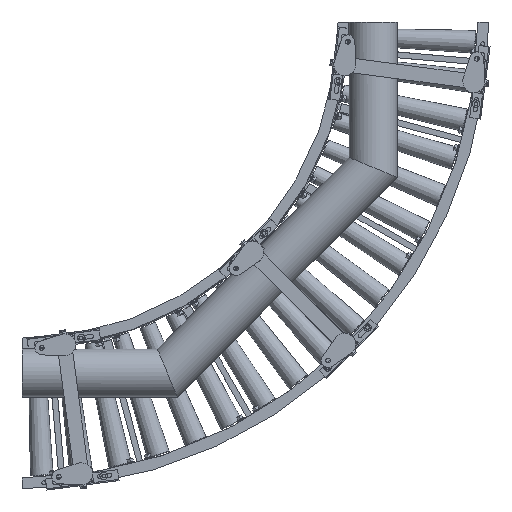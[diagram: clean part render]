
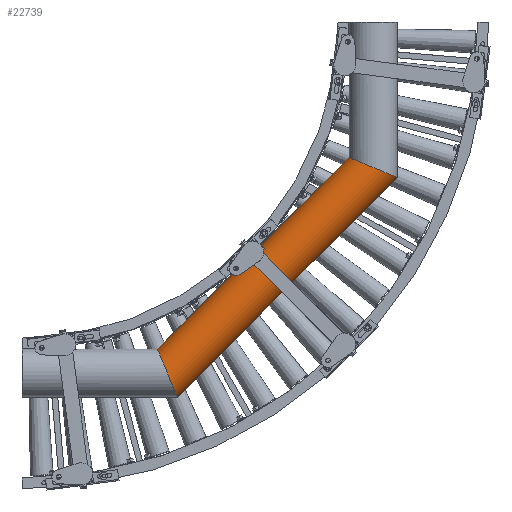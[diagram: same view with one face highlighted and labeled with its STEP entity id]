
A CAD part, front view. The second image highlights one B-rep face of the part: STEP entity #22739.
In plain terms, the highlighted cylindrical face has radius 67.024 mm (diameter 134.048 mm), a partial arc.
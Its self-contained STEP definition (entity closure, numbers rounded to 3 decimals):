
#3564 = LINE ( 'NONE', #170813, #120599 ) ;
#5569 = CARTESIAN_POINT ( 'NONE',  ( 1033.3, -166.5, -428.017 ) ) ;
#9137 = ORIENTED_EDGE ( 'NONE', *, *, #37104, .F. ) ;
#18612 =( BOUNDED_CURVE ( )  B_SPLINE_CURVE ( 3, ( #138707, #101784, #20935, #88190 ),
 .UNSPECIFIED., .F., .T. ) 
 B_SPLINE_CURVE_WITH_KNOTS ( ( 4, 4 ),
 ( 0.147, 2.994 ),
 .UNSPECIFIED. ) 
 CURVE ( )  GEOMETRIC_REPRESENTATION_ITEM ( )  RATIONAL_B_SPLINE_CURVE ( ( 1., 0.431, 0.431, 1. ) ) 
 REPRESENTATION_ITEM ( '' )  );
#18741 = CARTESIAN_POINT ( 'NONE',  ( 428.017, -166.5, -1033.3 ) ) ;
#20935 = CARTESIAN_POINT ( 'NONE',  ( 379.317, -267.933, -915.73 ) ) ;
#22739 = ADVANCED_FACE ( 'NONE', ( #121684 ), #87655, .T. ) ;
#32395 = CARTESIAN_POINT ( 'NONE',  ( 1033.3, -166.5, -428.017 ) ) ;
#34456 = VERTEX_POINT ( 'NONE', #18741 ) ;
#37104 = EDGE_CURVE ( 'NONE', #34456, #64594, #18612, .T. ) ;
#38973 =( BOUNDED_CURVE ( )  B_SPLINE_CURVE ( 3, ( #5569, #100730, #127464, #113270 ),
 .UNSPECIFIED., .F., .F. ) 
 B_SPLINE_CURVE_WITH_KNOTS ( ( 4, 4 ),
 ( 0.147, 2.994 ),
 .UNSPECIFIED. ) 
 CURVE ( )  GEOMETRIC_REPRESENTATION_ITEM ( )  RATIONAL_B_SPLINE_CURVE ( ( 1., 0.431, 0.431, 1. ) ) 
 REPRESENTATION_ITEM ( '' )  );
#42766 = CARTESIAN_POINT ( 'NONE',  ( 900.7, -166.5, -373.092 ) ) ;
#42850 = VECTOR ( 'NONE', #106863, 1000. ) ;
#50762 = ORIENTED_EDGE ( 'NONE', *, *, #99643, .T. ) ;
#55586 = LINE ( 'NONE', #107984, #42850 ) ;
#56014 = EDGE_LOOP ( 'NONE', ( #81239, #57363, #50762, #9137 ) ) ;
#57125 = CARTESIAN_POINT ( 'NONE',  ( 373.092, -166.5, -900.7 ) ) ;
#57363 = ORIENTED_EDGE ( 'NONE', *, *, #96743, .T. ) ;
#64310 = EDGE_CURVE ( 'NONE', #108893, #34456, #3564, .T. ) ;
#64594 = VERTEX_POINT ( 'NONE', #57125 ) ;
#68835 = DIRECTION ( 'NONE',  ( -0.707, 0., 0.707 ) ) ;
#81239 = ORIENTED_EDGE ( 'NONE', *, *, #64310, .F. ) ;
#87655 = CYLINDRICAL_SURFACE ( 'NONE', #145467, 67.024 ) ;
#88190 = CARTESIAN_POINT ( 'NONE',  ( 373.092, -166.5, -900.7 ) ) ;
#96743 = EDGE_CURVE ( 'NONE', #108893, #101223, #38973, .T. ) ;
#99643 = EDGE_CURVE ( 'NONE', #101223, #64594, #55586, .T. ) ;
#100730 = CARTESIAN_POINT ( 'NONE',  ( 1018.27, -267.933, -421.791 ) ) ;
#101223 = VERTEX_POINT ( 'NONE', #42766 ) ;
#101784 = CARTESIAN_POINT ( 'NONE',  ( 421.791, -267.933, -1018.27 ) ) ;
#106863 = DIRECTION ( 'NONE',  ( -0.707, 0., -0.707 ) ) ;
#107984 = CARTESIAN_POINT ( 'NONE',  ( 939.538, -166.5, -334.254 ) ) ;
#108893 = VERTEX_POINT ( 'NONE', #32395 ) ;
#113270 = CARTESIAN_POINT ( 'NONE',  ( 900.7, -166.5, -373.092 ) ) ;
#120599 = VECTOR ( 'NONE', #169624, 1000. ) ;
#121684 = FACE_OUTER_BOUND ( 'NONE', #56014, .T. ) ;
#122239 = DIRECTION ( 'NONE',  ( -0.707, 0., -0.707 ) ) ;
#127464 = CARTESIAN_POINT ( 'NONE',  ( 915.73, -267.933, -379.317 ) ) ;
#136492 = CARTESIAN_POINT ( 'NONE',  ( 986.419, -156.676, -381.135 ) ) ;
#138707 = CARTESIAN_POINT ( 'NONE',  ( 428.017, -166.5, -1033.3 ) ) ;
#145467 = AXIS2_PLACEMENT_3D ( 'NONE', #136492, #122239, #68835 ) ;
#169624 = DIRECTION ( 'NONE',  ( -0.707, 0., -0.707 ) ) ;
#170813 = CARTESIAN_POINT ( 'NONE',  ( 1033.3, -166.5, -428.017 ) ) ;
